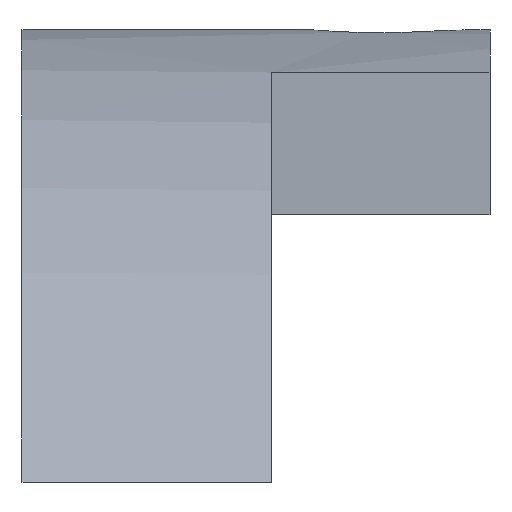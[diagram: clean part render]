
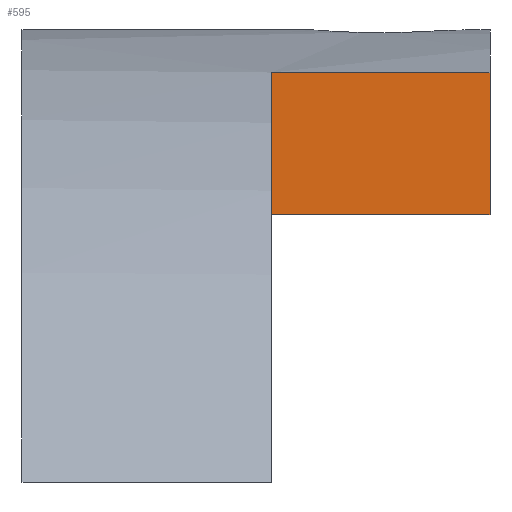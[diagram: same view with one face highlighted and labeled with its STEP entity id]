
A CAD part, front view. The second image highlights one B-rep face of the part: STEP entity #595.
In plain terms, the highlighted planar face has unit normal (0, -1, 0).
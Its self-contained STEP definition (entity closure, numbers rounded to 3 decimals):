
#73 = CYLINDRICAL_SURFACE('',#74,18.85);
#74 = AXIS2_PLACEMENT_3D('',#75,#76,#77);
#75 = CARTESIAN_POINT('',(60.3,0.,0.));
#76 = DIRECTION('',(1.,0.,0.));
#77 = DIRECTION('',(-0.,0.,1.));
#257 = PLANE('',#258);
#258 = AXIS2_PLACEMENT_3D('',#259,#260,#261);
#259 = CARTESIAN_POINT('',(71.,0.,0.));
#260 = DIRECTION('',(1.,0.,0.));
#261 = DIRECTION('',(-0.,0.,1.));
#389 = CYLINDRICAL_SURFACE('',#390,15.8);
#390 = AXIS2_PLACEMENT_3D('',#391,#392,#393);
#391 = CARTESIAN_POINT('',(59.3,0.,0.));
#392 = DIRECTION('',(1.,0.,0.));
#393 = DIRECTION('',(-0.,0.,1.));
#476 = VERTEX_POINT('',#477);
#477 = CARTESIAN_POINT('',(66.,-6.,14.616));
#491 = PLANE('',#492);
#492 = AXIS2_PLACEMENT_3D('',#493,#494,#495);
#493 = CARTESIAN_POINT('',(66.,0.,0.));
#494 = DIRECTION('',(1.,0.,0.));
#495 = DIRECTION('',(-0.,0.,1.));
#503 = EDGE_CURVE('',#476,#504,#506,.T.);
#504 = VERTEX_POINT('',#505);
#505 = CARTESIAN_POINT('',(71.,-6.,14.616));
#506 = SURFACE_CURVE('',#507,(#511,#517),.PCURVE_S1.);
#507 = LINE('',#508,#509);
#508 = CARTESIAN_POINT('',(65.,-6.,14.616));
#509 = VECTOR('',#510,1.);
#510 = DIRECTION('',(1.,0.,0.));
#511 = PCURVE('',#389,#512);
#512 = DEFINITIONAL_REPRESENTATION('',(#513),#516);
#513 = B_SPLINE_CURVE_WITH_KNOTS('',1,(#514,#515),.UNSPECIFIED.,.F.,.F.,
  (2,2),(1.,6.),.PIECEWISE_BEZIER_KNOTS.);
#514 = CARTESIAN_POINT('',(6.673,6.7));
#515 = CARTESIAN_POINT('',(6.673,11.7));
#516 = ( GEOMETRIC_REPRESENTATION_CONTEXT(2) 
PARAMETRIC_REPRESENTATION_CONTEXT() REPRESENTATION_CONTEXT('2D SPACE',''
  ) );
#517 = PCURVE('',#518,#523);
#518 = PLANE('',#519);
#519 = AXIS2_PLACEMENT_3D('',#520,#521,#522);
#520 = CARTESIAN_POINT('',(66.,-6.,0.));
#521 = DIRECTION('',(-0.,1.,0.));
#522 = DIRECTION('',(0.,0.,1.));
#523 = DEFINITIONAL_REPRESENTATION('',(#524),#527);
#524 = B_SPLINE_CURVE_WITH_KNOTS('',1,(#525,#526),.UNSPECIFIED.,.F.,.F.,
  (2,2),(1.,6.),.PIECEWISE_BEZIER_KNOTS.);
#525 = CARTESIAN_POINT('',(14.616,0.));
#526 = CARTESIAN_POINT('',(14.616,5.));
#527 = ( GEOMETRIC_REPRESENTATION_CONTEXT(2) 
PARAMETRIC_REPRESENTATION_CONTEXT() REPRESENTATION_CONTEXT('2D SPACE',''
  ) );
#595 = ADVANCED_FACE('',(#596),#518,.F.);
#596 = FACE_BOUND('',#597,.F.);
#597 = EDGE_LOOP('',(#598,#621,#622,#645));
#598 = ORIENTED_EDGE('',*,*,#599,.F.);
#599 = EDGE_CURVE('',#504,#600,#602,.T.);
#600 = VERTEX_POINT('',#601);
#601 = CARTESIAN_POINT('',(71.,-6.,17.87));
#602 = SURFACE_CURVE('',#603,(#607,#614),.PCURVE_S1.);
#603 = LINE('',#604,#605);
#604 = CARTESIAN_POINT('',(71.,-6.,0.));
#605 = VECTOR('',#606,1.);
#606 = DIRECTION('',(0.,0.,1.));
#607 = PCURVE('',#518,#608);
#608 = DEFINITIONAL_REPRESENTATION('',(#609),#613);
#609 = LINE('',#610,#611);
#610 = CARTESIAN_POINT('',(0.,5.));
#611 = VECTOR('',#612,1.);
#612 = DIRECTION('',(1.,0.));
#613 = ( GEOMETRIC_REPRESENTATION_CONTEXT(2) 
PARAMETRIC_REPRESENTATION_CONTEXT() REPRESENTATION_CONTEXT('2D SPACE',''
  ) );
#614 = PCURVE('',#257,#615);
#615 = DEFINITIONAL_REPRESENTATION('',(#616),#620);
#616 = LINE('',#617,#618);
#617 = CARTESIAN_POINT('',(0.,6.));
#618 = VECTOR('',#619,1.);
#619 = DIRECTION('',(1.,0.));
#620 = ( GEOMETRIC_REPRESENTATION_CONTEXT(2) 
PARAMETRIC_REPRESENTATION_CONTEXT() REPRESENTATION_CONTEXT('2D SPACE',''
  ) );
#621 = ORIENTED_EDGE('',*,*,#503,.F.);
#622 = ORIENTED_EDGE('',*,*,#623,.T.);
#623 = EDGE_CURVE('',#476,#624,#626,.T.);
#624 = VERTEX_POINT('',#625);
#625 = CARTESIAN_POINT('',(66.,-6.,17.87));
#626 = SURFACE_CURVE('',#627,(#631,#638),.PCURVE_S1.);
#627 = LINE('',#628,#629);
#628 = CARTESIAN_POINT('',(66.,-6.,0.));
#629 = VECTOR('',#630,1.);
#630 = DIRECTION('',(0.,0.,1.));
#631 = PCURVE('',#518,#632);
#632 = DEFINITIONAL_REPRESENTATION('',(#633),#637);
#633 = LINE('',#634,#635);
#634 = CARTESIAN_POINT('',(0.,0.));
#635 = VECTOR('',#636,1.);
#636 = DIRECTION('',(1.,0.));
#637 = ( GEOMETRIC_REPRESENTATION_CONTEXT(2) 
PARAMETRIC_REPRESENTATION_CONTEXT() REPRESENTATION_CONTEXT('2D SPACE',''
  ) );
#638 = PCURVE('',#491,#639);
#639 = DEFINITIONAL_REPRESENTATION('',(#640),#644);
#640 = LINE('',#641,#642);
#641 = CARTESIAN_POINT('',(0.,6.));
#642 = VECTOR('',#643,1.);
#643 = DIRECTION('',(1.,0.));
#644 = ( GEOMETRIC_REPRESENTATION_CONTEXT(2) 
PARAMETRIC_REPRESENTATION_CONTEXT() REPRESENTATION_CONTEXT('2D SPACE',''
  ) );
#645 = ORIENTED_EDGE('',*,*,#646,.T.);
#646 = EDGE_CURVE('',#624,#600,#647,.T.);
#647 = SURFACE_CURVE('',#648,(#652,#658),.PCURVE_S1.);
#648 = LINE('',#649,#650);
#649 = CARTESIAN_POINT('',(66.,-6.,17.87));
#650 = VECTOR('',#651,1.);
#651 = DIRECTION('',(1.,0.,0.));
#652 = PCURVE('',#518,#653);
#653 = DEFINITIONAL_REPRESENTATION('',(#654),#657);
#654 = B_SPLINE_CURVE_WITH_KNOTS('',1,(#655,#656),.UNSPECIFIED.,.F.,.F.,
  (2,2),(0.,5.),.PIECEWISE_BEZIER_KNOTS.);
#655 = CARTESIAN_POINT('',(17.87,0.));
#656 = CARTESIAN_POINT('',(17.87,5.));
#657 = ( GEOMETRIC_REPRESENTATION_CONTEXT(2) 
PARAMETRIC_REPRESENTATION_CONTEXT() REPRESENTATION_CONTEXT('2D SPACE',''
  ) );
#658 = PCURVE('',#73,#659);
#659 = DEFINITIONAL_REPRESENTATION('',(#660),#663);
#660 = B_SPLINE_CURVE_WITH_KNOTS('',1,(#661,#662),.UNSPECIFIED.,.F.,.F.,
  (2,2),(0.,5.),.PIECEWISE_BEZIER_KNOTS.);
#661 = CARTESIAN_POINT('',(0.324,5.7));
#662 = CARTESIAN_POINT('',(0.324,10.7));
#663 = ( GEOMETRIC_REPRESENTATION_CONTEXT(2) 
PARAMETRIC_REPRESENTATION_CONTEXT() REPRESENTATION_CONTEXT('2D SPACE',''
  ) );
